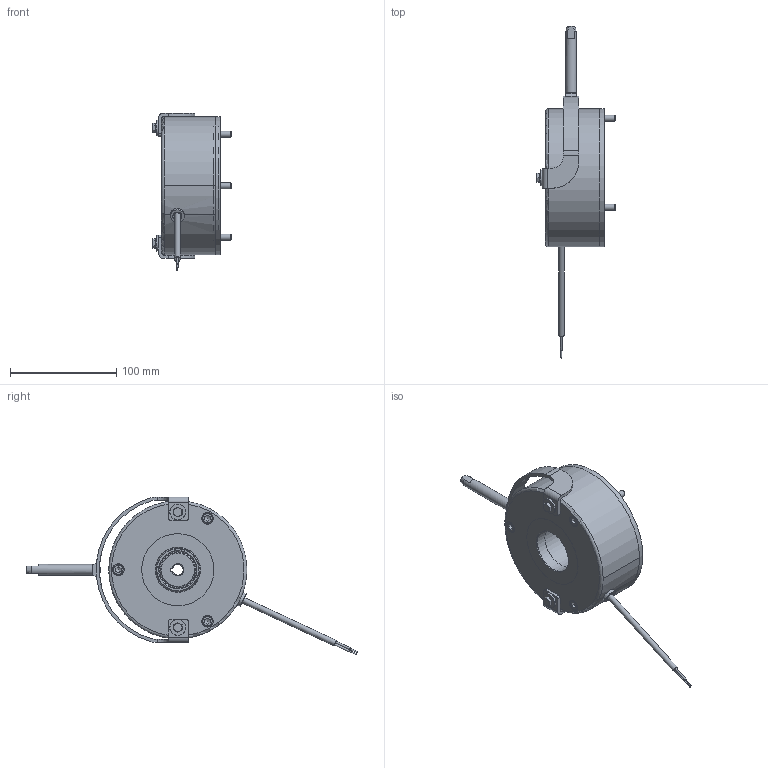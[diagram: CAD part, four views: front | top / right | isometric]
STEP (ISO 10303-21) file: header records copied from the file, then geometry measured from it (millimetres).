
FILE_DESCRIPTION(/* description */ (''),/* implementation_level */ '2;1');
FILE_NAME(/* name */ 'C:\SapWorkDir\Inventor\IP1\ConvertTempPath\5028630_IPT_000.ipt.stp',/* time_stamp */ '2020-09-11T13:47:15+02:00',/* author */ ('STRATE'),/* organization */ (''),/* preprocessor_version */ 'ST-DEVELOPER v17',/* originating_system */ 'Autodesk Inventor 2018',/* authorisation */ '');
FILE_SCHEMA (('AUTOMOTIVE_DESIGN { 1 0 10303 214 3 1 1 }'));
Length unit declared in the file: millimetre
Products named in the file (1): 5028630
Bounding box: 74.5 x 312.79 x 148.81 mm (x, y, z)
Volume: 414488.8 mm3; surface area: 154847.3 mm2
Topology: 5 solids, 5 shells, 614 faces, 1666 edges, 1126 vertices
Faces by surface type: cylinder 349, plane 150, cone 81, torus 29, bspline 5
Full cylindrical faces by diameter (mm): 1 x2, 1.85 x2, 3.242 x2, 3.6 x15, 5 x2, 5.3 x3, 5.5 x1, 5.9 x2, 6 x8, 6.2 x3, 6.5 x5, 6.6 x4, 6.7 x1, 6.9 x2, 7.4 x15, 8.5 x15, 9.2 x3, 9.9 x3, 10 x4, 11 x3, 13.2 x1, 15 x2, 42 x1, 44 x2, 65.7 x2, 68 x1, 69 x1, 95 x1, 122 x1, 128 x2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
Entity records: 21493 total; most frequent: CARTESIAN_POINT 5027, DIRECTION 3371, ORIENTED_EDGE 3298, EDGE_CURVE 1649, AXIS2_PLACEMENT_3D 1396, VERTEX_POINT 1127, CIRCLE 786, EDGE_LOOP 724
